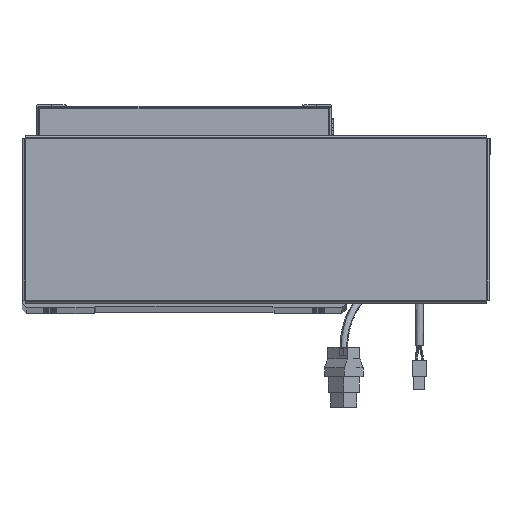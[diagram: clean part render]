
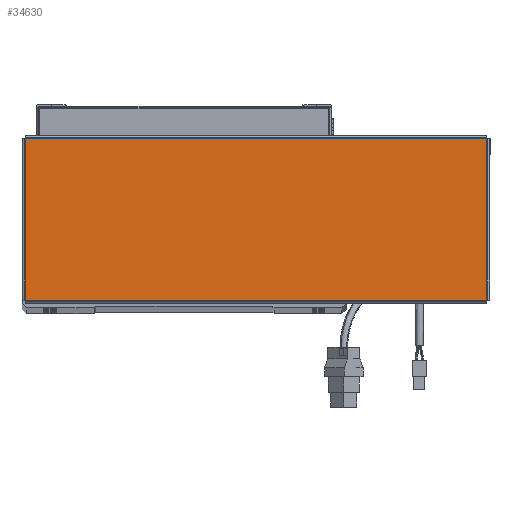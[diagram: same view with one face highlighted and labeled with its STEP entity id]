
A CAD part, top view. The second image highlights one B-rep face of the part: STEP entity #34630.
In plain terms, the highlighted planar face has unit normal (0, 0, 1).
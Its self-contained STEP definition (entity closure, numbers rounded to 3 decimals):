
#25 = VECTOR ( 'NONE', #54039, 1000. ) ;
#3959 = FACE_OUTER_BOUND ( 'NONE', #65149, .T. ) ;
#6962 = LINE ( 'NONE', #70977, #25 ) ;
#7158 = CARTESIAN_POINT ( 'NONE',  ( -156.513, -54.763, 0. ) ) ;
#7873 = VECTOR ( 'NONE', #64966, 1000. ) ;
#8170 = VERTEX_POINT ( 'NONE', #16970 ) ;
#12656 = DIRECTION ( 'NONE',  ( 0., 0., 1. ) ) ;
#12833 = LINE ( 'NONE', #41110, #55885 ) ;
#13417 = ORIENTED_EDGE ( 'NONE', *, *, #70528, .T. ) ;
#15647 = LINE ( 'NONE', #26347, #7873 ) ;
#16970 = CARTESIAN_POINT ( 'NONE',  ( 156.513, 54.763, 0. ) ) ;
#19806 = ORIENTED_EDGE ( 'NONE', *, *, #41214, .T. ) ;
#20090 = VERTEX_POINT ( 'NONE', #70189 ) ;
#23467 = PLANE ( 'NONE',  #60881 ) ;
#24357 = CARTESIAN_POINT ( 'NONE',  ( 156.513, -54.763, 0. ) ) ;
#26347 = CARTESIAN_POINT ( 'NONE',  ( 156.543, 54.763, 0. ) ) ;
#27611 = DIRECTION ( 'NONE',  ( 1., 0., 0. ) ) ;
#29709 = VERTEX_POINT ( 'NONE', #24357 ) ;
#34630 = ADVANCED_FACE ( 'NONE', ( #3959 ), #23467, .T. ) ;
#38869 = VECTOR ( 'NONE', #27611, 1000. ) ;
#39277 = ORIENTED_EDGE ( 'NONE', *, *, #56796, .T. ) ;
#41110 = CARTESIAN_POINT ( 'NONE',  ( 156.513, -54.793, 0. ) ) ;
#41214 = EDGE_CURVE ( 'NONE', #20090, #63151, #6962, .T. ) ;
#45630 = CARTESIAN_POINT ( 'NONE',  ( 0., 0., 0. ) ) ;
#54039 = DIRECTION ( 'NONE',  ( 0., -1., 0. ) ) ;
#55885 = VECTOR ( 'NONE', #57479, 1000. ) ;
#56796 = EDGE_CURVE ( 'NONE', #63151, #29709, #66540, .T. ) ;
#57479 = DIRECTION ( 'NONE',  ( 0., 1., 0. ) ) ;
#60881 = AXIS2_PLACEMENT_3D ( 'NONE', #45630, #12656, #68586 ) ;
#63151 = VERTEX_POINT ( 'NONE', #7158 ) ;
#64296 = EDGE_CURVE ( 'NONE', #29709, #8170, #12833, .T. ) ;
#64966 = DIRECTION ( 'NONE',  ( -1., 0., 0. ) ) ;
#65072 = ORIENTED_EDGE ( 'NONE', *, *, #64296, .T. ) ;
#65149 = EDGE_LOOP ( 'NONE', ( #39277, #65072, #13417, #19806 ) ) ;
#66469 = CARTESIAN_POINT ( 'NONE',  ( -156.543, -54.763, 0. ) ) ;
#66540 = LINE ( 'NONE', #66469, #38869 ) ;
#68586 = DIRECTION ( 'NONE',  ( 1., 0., 0. ) ) ;
#70189 = CARTESIAN_POINT ( 'NONE',  ( -156.513, 54.763, 0. ) ) ;
#70528 = EDGE_CURVE ( 'NONE', #8170, #20090, #15647, .T. ) ;
#70977 = CARTESIAN_POINT ( 'NONE',  ( -156.513, 54.793, 0. ) ) ;
